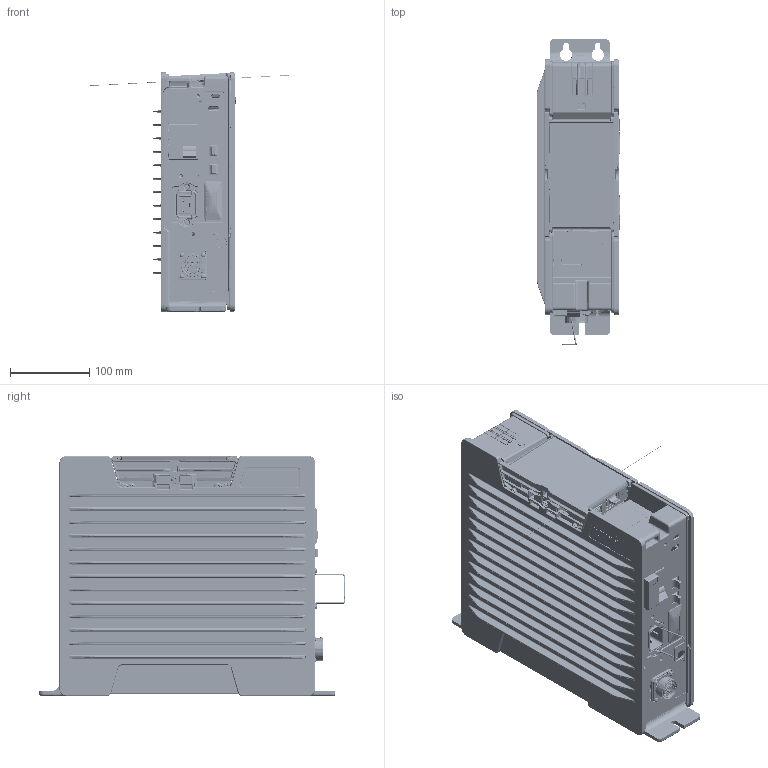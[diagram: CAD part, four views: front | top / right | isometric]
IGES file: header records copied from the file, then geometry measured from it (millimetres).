
Start section:  PTC IGES file: 6159327960_dim.igs
Global section: file name: 6159327960_dim.igs; native system: Creo Parametric by PTC Inc.; preprocessor: 2025243; author: SYSTEM; organization: Unknown; date: 20260324.115454; units: millimetre
Bounding box: 261.55 x 387.04 x 303.44 mm (x, y, z)
Surface area: 884679.4 mm2 (no closed solid volume)
Topology: 0 solids, 0 shells, 7736 faces, 63428 edges, 63382 vertices
Faces by surface type: bspline 4800, revolution 2931, extrusion 5
